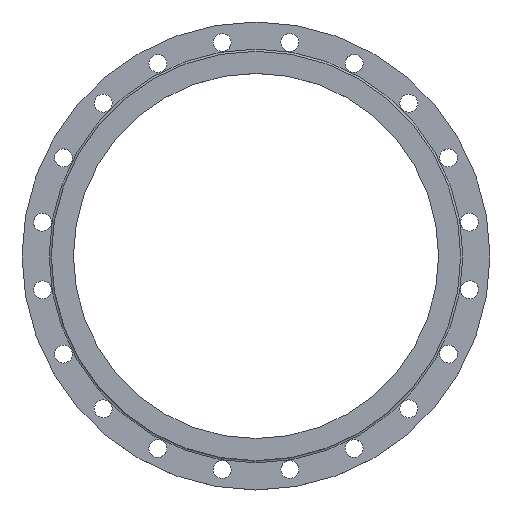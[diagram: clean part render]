
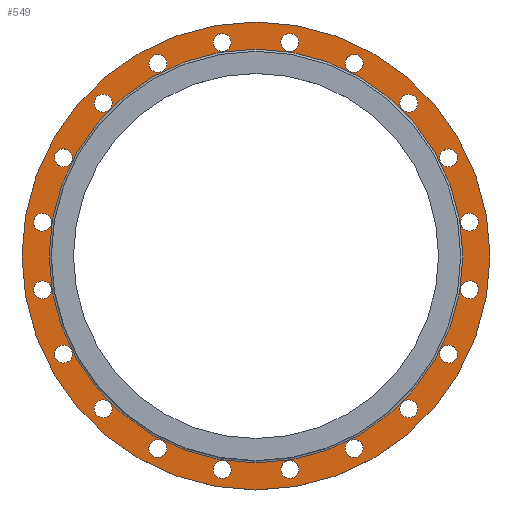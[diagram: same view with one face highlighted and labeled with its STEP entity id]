
A CAD part, top view. The second image highlights one B-rep face of the part: STEP entity #549.
In plain terms, the highlighted planar face has unit normal (0, 0, 1).
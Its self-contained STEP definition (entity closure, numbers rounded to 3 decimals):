
#81=FACE_BOUND('',#155,.T.);
#82=FACE_BOUND('',#156,.T.);
#83=FACE_BOUND('',#157,.T.);
#84=FACE_BOUND('',#158,.T.);
#85=FACE_BOUND('',#159,.T.);
#86=FACE_BOUND('',#160,.T.);
#87=FACE_BOUND('',#161,.T.);
#88=FACE_BOUND('',#162,.T.);
#89=FACE_BOUND('',#163,.T.);
#90=FACE_BOUND('',#164,.T.);
#91=FACE_BOUND('',#165,.T.);
#92=FACE_BOUND('',#166,.T.);
#93=FACE_BOUND('',#167,.T.);
#94=FACE_BOUND('',#168,.T.);
#95=FACE_BOUND('',#169,.T.);
#96=FACE_BOUND('',#170,.T.);
#97=FACE_BOUND('',#171,.T.);
#98=FACE_BOUND('',#172,.T.);
#99=FACE_BOUND('',#173,.T.);
#100=FACE_BOUND('',#174,.T.);
#101=FACE_BOUND('',#175,.T.);
#124=PLANE('',#600);
#128=FACE_OUTER_BOUND('',#154,.T.);
#154=EDGE_LOOP('',(#405,#406));
#155=EDGE_LOOP('',(#407));
#156=EDGE_LOOP('',(#408));
#157=EDGE_LOOP('',(#409));
#158=EDGE_LOOP('',(#410));
#159=EDGE_LOOP('',(#411));
#160=EDGE_LOOP('',(#412));
#161=EDGE_LOOP('',(#413));
#162=EDGE_LOOP('',(#414));
#163=EDGE_LOOP('',(#415));
#164=EDGE_LOOP('',(#416));
#165=EDGE_LOOP('',(#417));
#166=EDGE_LOOP('',(#418));
#167=EDGE_LOOP('',(#419));
#168=EDGE_LOOP('',(#420));
#169=EDGE_LOOP('',(#421));
#170=EDGE_LOOP('',(#422));
#171=EDGE_LOOP('',(#423));
#172=EDGE_LOOP('',(#424));
#173=EDGE_LOOP('',(#425));
#174=EDGE_LOOP('',(#426));
#175=EDGE_LOOP('',(#427,#428));
#222=CIRCLE('',#595,289.5);
#226=CIRCLE('',#599,289.5);
#227=CIRCLE('',#601,327.5);
#228=CIRCLE('',#602,327.5);
#229=CIRCLE('',#603,12.5);
#230=CIRCLE('',#604,12.5);
#231=CIRCLE('',#605,12.5);
#232=CIRCLE('',#606,12.5);
#233=CIRCLE('',#607,12.5);
#234=CIRCLE('',#608,12.5);
#235=CIRCLE('',#609,12.5);
#236=CIRCLE('',#610,12.5);
#237=CIRCLE('',#611,12.5);
#238=CIRCLE('',#612,12.5);
#239=CIRCLE('',#613,12.5);
#240=CIRCLE('',#614,12.5);
#241=CIRCLE('',#615,12.5);
#242=CIRCLE('',#616,12.5);
#243=CIRCLE('',#617,12.5);
#244=CIRCLE('',#618,12.5);
#245=CIRCLE('',#619,12.5);
#246=CIRCLE('',#620,12.5);
#247=CIRCLE('',#621,12.5);
#248=CIRCLE('',#622,12.5);
#274=VERTEX_POINT('',#854);
#275=VERTEX_POINT('',#855);
#278=VERTEX_POINT('',#864);
#279=VERTEX_POINT('',#865);
#280=VERTEX_POINT('',#868);
#281=VERTEX_POINT('',#870);
#282=VERTEX_POINT('',#872);
#283=VERTEX_POINT('',#874);
#284=VERTEX_POINT('',#876);
#285=VERTEX_POINT('',#878);
#286=VERTEX_POINT('',#880);
#287=VERTEX_POINT('',#882);
#288=VERTEX_POINT('',#884);
#289=VERTEX_POINT('',#886);
#290=VERTEX_POINT('',#888);
#291=VERTEX_POINT('',#890);
#292=VERTEX_POINT('',#892);
#293=VERTEX_POINT('',#894);
#294=VERTEX_POINT('',#896);
#295=VERTEX_POINT('',#898);
#296=VERTEX_POINT('',#900);
#297=VERTEX_POINT('',#902);
#298=VERTEX_POINT('',#904);
#299=VERTEX_POINT('',#906);
#325=EDGE_CURVE('',#274,#275,#222,.T.);
#329=EDGE_CURVE('',#275,#274,#226,.T.);
#330=EDGE_CURVE('',#278,#279,#227,.T.);
#331=EDGE_CURVE('',#279,#278,#228,.T.);
#332=EDGE_CURVE('',#280,#280,#229,.T.);
#333=EDGE_CURVE('',#281,#281,#230,.T.);
#334=EDGE_CURVE('',#282,#282,#231,.T.);
#335=EDGE_CURVE('',#283,#283,#232,.T.);
#336=EDGE_CURVE('',#284,#284,#233,.T.);
#337=EDGE_CURVE('',#285,#285,#234,.T.);
#338=EDGE_CURVE('',#286,#286,#235,.T.);
#339=EDGE_CURVE('',#287,#287,#236,.T.);
#340=EDGE_CURVE('',#288,#288,#237,.T.);
#341=EDGE_CURVE('',#289,#289,#238,.T.);
#342=EDGE_CURVE('',#290,#290,#239,.T.);
#343=EDGE_CURVE('',#291,#291,#240,.T.);
#344=EDGE_CURVE('',#292,#292,#241,.T.);
#345=EDGE_CURVE('',#293,#293,#242,.T.);
#346=EDGE_CURVE('',#294,#294,#243,.T.);
#347=EDGE_CURVE('',#295,#295,#244,.T.);
#348=EDGE_CURVE('',#296,#296,#245,.T.);
#349=EDGE_CURVE('',#297,#297,#246,.T.);
#350=EDGE_CURVE('',#298,#298,#247,.T.);
#351=EDGE_CURVE('',#299,#299,#248,.T.);
#405=ORIENTED_EDGE('',*,*,#330,.F.);
#406=ORIENTED_EDGE('',*,*,#331,.F.);
#407=ORIENTED_EDGE('',*,*,#332,.F.);
#408=ORIENTED_EDGE('',*,*,#333,.F.);
#409=ORIENTED_EDGE('',*,*,#334,.F.);
#410=ORIENTED_EDGE('',*,*,#335,.F.);
#411=ORIENTED_EDGE('',*,*,#336,.F.);
#412=ORIENTED_EDGE('',*,*,#337,.F.);
#413=ORIENTED_EDGE('',*,*,#338,.F.);
#414=ORIENTED_EDGE('',*,*,#339,.F.);
#415=ORIENTED_EDGE('',*,*,#340,.F.);
#416=ORIENTED_EDGE('',*,*,#341,.F.);
#417=ORIENTED_EDGE('',*,*,#342,.F.);
#418=ORIENTED_EDGE('',*,*,#343,.F.);
#419=ORIENTED_EDGE('',*,*,#344,.F.);
#420=ORIENTED_EDGE('',*,*,#345,.F.);
#421=ORIENTED_EDGE('',*,*,#346,.F.);
#422=ORIENTED_EDGE('',*,*,#347,.F.);
#423=ORIENTED_EDGE('',*,*,#348,.F.);
#424=ORIENTED_EDGE('',*,*,#349,.F.);
#425=ORIENTED_EDGE('',*,*,#350,.F.);
#426=ORIENTED_EDGE('',*,*,#351,.F.);
#427=ORIENTED_EDGE('',*,*,#325,.F.);
#428=ORIENTED_EDGE('',*,*,#329,.F.);
#549=ADVANCED_FACE('',(#128,#81,#82,#83,#84,#85,#86,#87,#88,#89,#90,#91,
#92,#93,#94,#95,#96,#97,#98,#99,#100,#101),#124,.T.);
#595=AXIS2_PLACEMENT_3D('',#856,#676,#677);
#599=AXIS2_PLACEMENT_3D('',#862,#684,#685);
#600=AXIS2_PLACEMENT_3D('',#863,#686,#687);
#601=AXIS2_PLACEMENT_3D('',#866,#688,#689);
#602=AXIS2_PLACEMENT_3D('',#867,#690,#691);
#603=AXIS2_PLACEMENT_3D('',#869,#692,#693);
#604=AXIS2_PLACEMENT_3D('',#871,#694,#695);
#605=AXIS2_PLACEMENT_3D('',#873,#696,#697);
#606=AXIS2_PLACEMENT_3D('',#875,#698,#699);
#607=AXIS2_PLACEMENT_3D('',#877,#700,#701);
#608=AXIS2_PLACEMENT_3D('',#879,#702,#703);
#609=AXIS2_PLACEMENT_3D('',#881,#704,#705);
#610=AXIS2_PLACEMENT_3D('',#883,#706,#707);
#611=AXIS2_PLACEMENT_3D('',#885,#708,#709);
#612=AXIS2_PLACEMENT_3D('',#887,#710,#711);
#613=AXIS2_PLACEMENT_3D('',#889,#712,#713);
#614=AXIS2_PLACEMENT_3D('',#891,#714,#715);
#615=AXIS2_PLACEMENT_3D('',#893,#716,#717);
#616=AXIS2_PLACEMENT_3D('',#895,#718,#719);
#617=AXIS2_PLACEMENT_3D('',#897,#720,#721);
#618=AXIS2_PLACEMENT_3D('',#899,#722,#723);
#619=AXIS2_PLACEMENT_3D('',#901,#724,#725);
#620=AXIS2_PLACEMENT_3D('',#903,#726,#727);
#621=AXIS2_PLACEMENT_3D('',#905,#728,#729);
#622=AXIS2_PLACEMENT_3D('',#907,#730,#731);
#676=DIRECTION('center_axis',(0.,0.,1.));
#677=DIRECTION('ref_axis',(-1.,0.,0.));
#684=DIRECTION('center_axis',(0.,0.,1.));
#685=DIRECTION('ref_axis',(-1.,0.,0.));
#686=DIRECTION('center_axis',(0.,0.,1.));
#687=DIRECTION('ref_axis',(1.,0.,0.));
#688=DIRECTION('center_axis',(0.,0.,-1.));
#689=DIRECTION('ref_axis',(1.,0.,0.));
#690=DIRECTION('center_axis',(0.,0.,-1.));
#691=DIRECTION('ref_axis',(1.,0.,0.));
#692=DIRECTION('center_axis',(0.,0.,1.));
#693=DIRECTION('ref_axis',(1.,0.,0.));
#694=DIRECTION('center_axis',(0.,0.,1.));
#695=DIRECTION('ref_axis',(0.951,0.309,0.));
#696=DIRECTION('center_axis',(0.,0.,1.));
#697=DIRECTION('ref_axis',(0.809,0.588,0.));
#698=DIRECTION('center_axis',(0.,0.,1.));
#699=DIRECTION('ref_axis',(0.588,0.809,0.));
#700=DIRECTION('center_axis',(0.,0.,1.));
#701=DIRECTION('ref_axis',(0.309,0.951,0.));
#702=DIRECTION('center_axis',(0.,0.,1.));
#703=DIRECTION('ref_axis',(0.,1.,0.));
#704=DIRECTION('center_axis',(0.,0.,1.));
#705=DIRECTION('ref_axis',(-0.309,0.951,0.));
#706=DIRECTION('center_axis',(0.,0.,1.));
#707=DIRECTION('ref_axis',(-0.588,0.809,0.));
#708=DIRECTION('center_axis',(0.,0.,1.));
#709=DIRECTION('ref_axis',(-0.809,0.588,0.));
#710=DIRECTION('center_axis',(0.,0.,1.));
#711=DIRECTION('ref_axis',(-0.951,0.309,0.));
#712=DIRECTION('center_axis',(0.,0.,1.));
#713=DIRECTION('ref_axis',(-1.,0.,0.));
#714=DIRECTION('center_axis',(0.,0.,1.));
#715=DIRECTION('ref_axis',(-0.951,-0.309,0.));
#716=DIRECTION('center_axis',(0.,0.,1.));
#717=DIRECTION('ref_axis',(-0.809,-0.588,0.));
#718=DIRECTION('center_axis',(0.,0.,1.));
#719=DIRECTION('ref_axis',(-0.588,-0.809,0.));
#720=DIRECTION('center_axis',(0.,0.,1.));
#721=DIRECTION('ref_axis',(-0.309,-0.951,0.));
#722=DIRECTION('center_axis',(0.,0.,1.));
#723=DIRECTION('ref_axis',(0.,-1.,0.));
#724=DIRECTION('center_axis',(0.,0.,1.));
#725=DIRECTION('ref_axis',(0.309,-0.951,0.));
#726=DIRECTION('center_axis',(0.,0.,1.));
#727=DIRECTION('ref_axis',(0.588,-0.809,0.));
#728=DIRECTION('center_axis',(0.,0.,1.));
#729=DIRECTION('ref_axis',(0.809,-0.588,0.));
#730=DIRECTION('center_axis',(0.,0.,1.));
#731=DIRECTION('ref_axis',(0.951,-0.309,0.));
#854=CARTESIAN_POINT('',(289.5,0.,21.));
#855=CARTESIAN_POINT('',(-289.5,0.,21.));
#856=CARTESIAN_POINT('Origin',(0.,0.,21.));
#862=CARTESIAN_POINT('Origin',(0.,0.,21.));
#863=CARTESIAN_POINT('Origin',(0.,0.,21.));
#864=CARTESIAN_POINT('',(327.5,0.,21.));
#865=CARTESIAN_POINT('',(-327.5,0.,21.));
#866=CARTESIAN_POINT('Origin',(0.,0.,21.));
#867=CARTESIAN_POINT('Origin',(0.,0.,21.));
#868=CARTESIAN_POINT('',(-59.821,298.776,21.));
#869=CARTESIAN_POINT('Origin',(-47.321,298.776,21.));
#870=CARTESIAN_POINT('',(-149.22,265.667,21.));
#871=CARTESIAN_POINT('Origin',(-137.332,269.529,21.));
#872=CARTESIAN_POINT('',(-224.013,206.552,21.));
#873=CARTESIAN_POINT('Origin',(-213.9,213.9,21.));
#874=CARTESIAN_POINT('',(-276.877,127.219,21.));
#875=CARTESIAN_POINT('Origin',(-269.529,137.332,21.));
#876=CARTESIAN_POINT('',(-302.638,35.433,21.));
#877=CARTESIAN_POINT('Origin',(-298.776,47.321,21.));
#878=CARTESIAN_POINT('',(-298.776,-59.821,21.));
#879=CARTESIAN_POINT('Origin',(-298.776,-47.321,21.));
#880=CARTESIAN_POINT('',(-265.667,-149.22,21.));
#881=CARTESIAN_POINT('Origin',(-269.529,-137.332,21.));
#882=CARTESIAN_POINT('',(-206.552,-224.013,21.));
#883=CARTESIAN_POINT('Origin',(-213.9,-213.9,21.));
#884=CARTESIAN_POINT('',(-127.219,-276.877,21.));
#885=CARTESIAN_POINT('Origin',(-137.332,-269.529,21.));
#886=CARTESIAN_POINT('',(-35.433,-302.638,21.));
#887=CARTESIAN_POINT('Origin',(-47.321,-298.776,21.));
#888=CARTESIAN_POINT('',(59.821,-298.776,21.));
#889=CARTESIAN_POINT('Origin',(47.321,-298.776,21.));
#890=CARTESIAN_POINT('',(149.22,-265.667,21.));
#891=CARTESIAN_POINT('Origin',(137.332,-269.529,21.));
#892=CARTESIAN_POINT('',(224.013,-206.552,21.));
#893=CARTESIAN_POINT('Origin',(213.9,-213.9,21.));
#894=CARTESIAN_POINT('',(276.877,-127.219,21.));
#895=CARTESIAN_POINT('Origin',(269.529,-137.332,21.));
#896=CARTESIAN_POINT('',(302.638,-35.433,21.));
#897=CARTESIAN_POINT('Origin',(298.776,-47.321,21.));
#898=CARTESIAN_POINT('',(298.776,59.821,21.));
#899=CARTESIAN_POINT('Origin',(298.776,47.321,21.));
#900=CARTESIAN_POINT('',(265.667,149.22,21.));
#901=CARTESIAN_POINT('Origin',(269.529,137.332,21.));
#902=CARTESIAN_POINT('',(206.552,224.013,21.));
#903=CARTESIAN_POINT('Origin',(213.9,213.9,21.));
#904=CARTESIAN_POINT('',(127.219,276.877,21.));
#905=CARTESIAN_POINT('Origin',(137.332,269.529,21.));
#906=CARTESIAN_POINT('',(35.433,302.638,21.));
#907=CARTESIAN_POINT('Origin',(47.321,298.776,21.));
